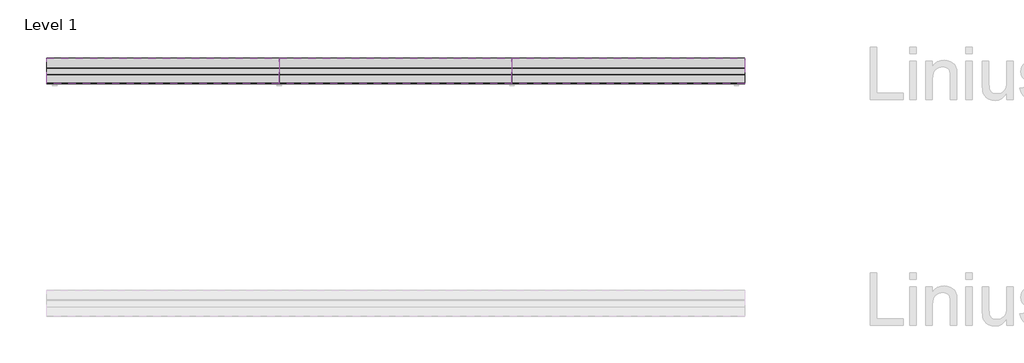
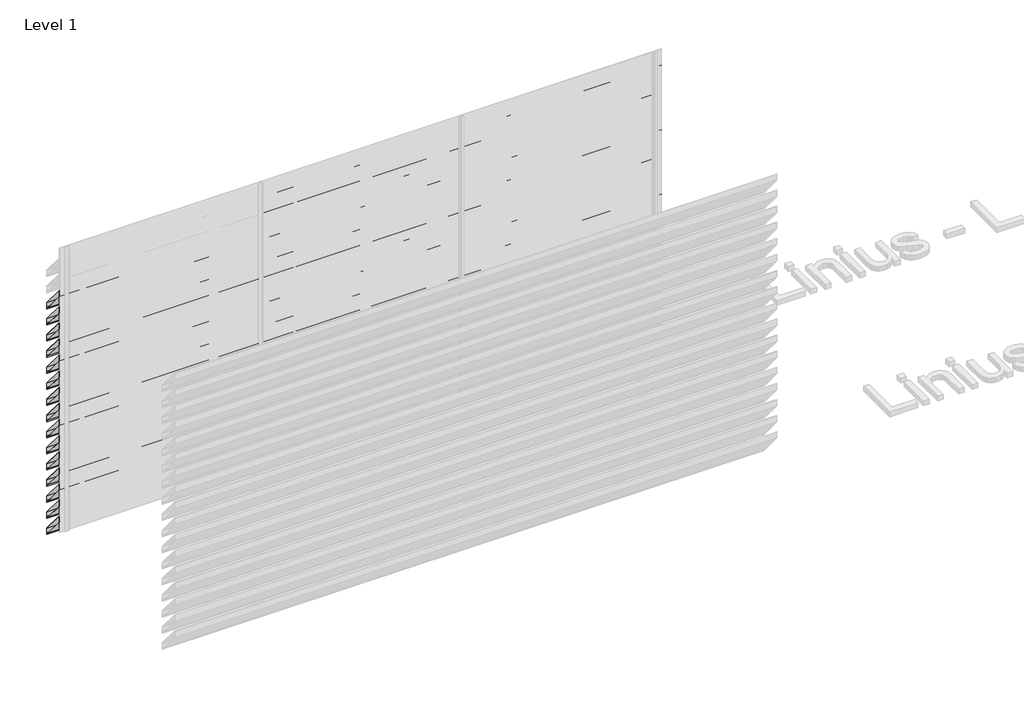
# One storey, part 39 of 121: 49 proxies.
"""IFC4 building model written with IfcOpenShell, lengths in millimetres."""

from ifc_helpers import new_model, si_unit, frame, origin, place, context, project, spatial, polyline, outline, extrude, element, save

model = new_model("IFC4")

# Units and contexts
model_context = context("Model", 3, world=origin())
ifc_project = project(units=[si_unit("LENGTHUNIT", "METRE", prefix="MILLI")], contexts=[model_context])

# Site, building, storey
site = spatial("IfcSite", under=ifc_project)
building = spatial("IfcBuilding", under=site)
storey = spatial("IfcBuildingStorey", under=building, Name="Level 1", Elevation=0.0)

# Proxies
placement = place(None, origin())
element("IfcBuildingElementProxy", 1, Name="Wall Sweeps", at=placement, inside=storey, context=model_context, shape_type="SweptSolid", body=[
    extrude(outline(polyline([(44205.0540136, 2291.0), (44205.0540136, 2222.0), (44202.5540136, 2223.1657691), (44202.5540136, 2236.7059843), (44185.8041465, 2256.6676986), (44175.1189071, 2256.6676986), (43983.0540136, 2485.5617253), (43983.0540136, 2550.0), (43987.7272091, 2550.0), (44205.0540136, 2291.0)]), holes=[polyline([(43986.8412246, 2548.1), (43984.9540136, 2548.1), (43984.9540136, 2486.2532688), (44176.0048916, 2258.5676986), (44186.6901311, 2258.5676986), (44203.1540136, 2238.9468074), (44203.1540136, 2290.3084566), (43986.8412246, 2548.1)])]), frame((466.6208097, 0.0, 0.0), z_axis=(1.0, 0.0, 0.0), x_axis=(0.0, 1.0, 0.0)), (0.0, 0.0, 1.0), 2000.0),
])
element("IfcBuildingElementProxy", 2, Name="Wall Sweeps", at=placement, inside=storey, context=model_context, shape_type="SweptSolid", body=[
    extrude(outline(polyline([(44205.0540136, 2121.0), (44205.0540136, 2052.0), (44202.5540136, 2053.1657691), (44202.5540136, 2066.7059843), (44185.8041465, 2086.6676986), (44175.1189071, 2086.6676986), (43983.0540136, 2315.5617253), (43983.0540136, 2380.0), (43987.7272091, 2380.0), (44205.0540136, 2121.0)]), holes=[polyline([(43986.8412246, 2378.1), (43984.9540136, 2378.1), (43984.9540136, 2316.2532688), (44176.0048916, 2088.5676986), (44186.6901311, 2088.5676986), (44203.1540136, 2068.9468074), (44203.1540136, 2120.3084566), (43986.8412246, 2378.1)])]), frame((466.6208097, 0.0, 0.0), z_axis=(1.0, 0.0, 0.0), x_axis=(0.0, 1.0, 0.0)), (0.0, 0.0, 1.0), 2000.0),
])
element("IfcBuildingElementProxy", 3, Name="Wall Sweeps", at=placement, inside=storey, context=model_context, shape_type="SweptSolid", body=[
    extrude(outline(polyline([(44205.0540136, 1951.0), (44205.0540136, 1882.0), (44202.5540136, 1883.1657691), (44202.5540136, 1896.7059843), (44185.8041465, 1916.6676986), (44175.1189071, 1916.6676986), (43983.0540136, 2145.5617253), (43983.0540136, 2210.0), (43987.7272091, 2210.0), (44205.0540136, 1951.0)]), holes=[polyline([(43986.8412246, 2208.1), (43984.9540136, 2208.1), (43984.9540136, 2146.2532688), (44176.0048916, 1918.5676986), (44186.6901311, 1918.5676986), (44203.1540136, 1898.9468074), (44203.1540136, 1950.3084566), (43986.8412246, 2208.1)])]), frame((466.6208097, 0.0, 0.0), z_axis=(1.0, 0.0, 0.0), x_axis=(0.0, 1.0, 0.0)), (0.0, 0.0, 1.0), 2000.0),
])
element("IfcBuildingElementProxy", 4, Name="Wall Sweeps", at=placement, inside=storey, context=model_context, shape_type="SweptSolid", body=[
    extrude(outline(polyline([(44205.0540136, 1781.0), (44205.0540136, 1712.0), (44202.5540136, 1713.1657691), (44202.5540136, 1726.7059843), (44185.8041465, 1746.6676986), (44175.1189071, 1746.6676986), (43983.0540136, 1975.5617253), (43983.0540136, 2040.0), (43987.7272091, 2040.0), (44205.0540136, 1781.0)]), holes=[polyline([(43986.8412246, 2038.1), (43984.9540136, 2038.1), (43984.9540136, 1976.2532688), (44176.0048916, 1748.5676986), (44186.6901311, 1748.5676986), (44203.1540136, 1728.9468074), (44203.1540136, 1780.3084566), (43986.8412246, 2038.1)])]), frame((466.6208097, 0.0, 0.0), z_axis=(1.0, 0.0, 0.0), x_axis=(0.0, 1.0, 0.0)), (0.0, 0.0, 1.0), 2000.0),
])
element("IfcBuildingElementProxy", 5, Name="Wall Sweeps", at=placement, inside=storey, context=model_context, shape_type="SweptSolid", body=[
    extrude(outline(polyline([(44205.0540136, 1611.0), (44205.0540136, 1542.0), (44202.5540136, 1543.1657691), (44202.5540136, 1556.7059843), (44185.8041465, 1576.6676986), (44175.1189071, 1576.6676986), (43983.0540136, 1805.5617253), (43983.0540136, 1870.0), (43987.7272091, 1870.0), (44205.0540136, 1611.0)]), holes=[polyline([(43986.8412246, 1868.1), (43984.9540136, 1868.1), (43984.9540136, 1806.2532688), (44176.0048916, 1578.5676986), (44186.6901311, 1578.5676986), (44203.1540136, 1558.9468074), (44203.1540136, 1610.3084566), (43986.8412246, 1868.1)])]), frame((466.6208097, 0.0, 0.0), z_axis=(1.0, 0.0, 0.0), x_axis=(0.0, 1.0, 0.0)), (0.0, 0.0, 1.0), 2000.0),
])
element("IfcBuildingElementProxy", 6, Name="Wall Sweeps", at=placement, inside=storey, context=model_context, shape_type="SweptSolid", body=[
    extrude(outline(polyline([(44205.0540136, 1441.0), (44205.0540136, 1372.0), (44202.5540136, 1373.1657691), (44202.5540136, 1386.7059843), (44185.8041465, 1406.6676986), (44175.1189071, 1406.6676986), (43983.0540136, 1635.5617253), (43983.0540136, 1700.0), (43987.7272091, 1700.0), (44205.0540136, 1441.0)]), holes=[polyline([(43986.8412246, 1698.1), (43984.9540136, 1698.1), (43984.9540136, 1636.2532688), (44176.0048916, 1408.5676986), (44186.6901311, 1408.5676986), (44203.1540136, 1388.9468074), (44203.1540136, 1440.3084566), (43986.8412246, 1698.1)])]), frame((466.6208097, 0.0, 0.0), z_axis=(1.0, 0.0, 0.0), x_axis=(0.0, 1.0, 0.0)), (0.0, 0.0, 1.0), 2000.0),
])
element("IfcBuildingElementProxy", 7, Name="Wall Sweeps", at=placement, inside=storey, context=model_context, shape_type="SweptSolid", body=[
    extrude(outline(polyline([(44205.0540136, 1271.0), (44205.0540136, 1202.0), (44202.5540136, 1203.1657691), (44202.5540136, 1216.7059843), (44185.8041465, 1236.6676986), (44175.1189071, 1236.6676986), (43983.0540136, 1465.5617253), (43983.0540136, 1530.0), (43987.7272091, 1530.0), (44205.0540136, 1271.0)]), holes=[polyline([(43986.8412246, 1528.1), (43984.9540136, 1528.1), (43984.9540136, 1466.2532688), (44176.0048916, 1238.5676986), (44186.6901311, 1238.5676986), (44203.1540136, 1218.9468074), (44203.1540136, 1270.3084566), (43986.8412246, 1528.1)])]), frame((466.6208097, 0.0, 0.0), z_axis=(1.0, 0.0, 0.0), x_axis=(0.0, 1.0, 0.0)), (0.0, 0.0, 1.0), 2000.0),
])
element("IfcBuildingElementProxy", 8, Name="Wall Sweeps", at=placement, inside=storey, context=model_context, shape_type="SweptSolid", body=[
    extrude(outline(polyline([(44205.0540136, 1101.0), (44205.0540136, 1032.0), (44202.5540136, 1033.1657691), (44202.5540136, 1046.7059843), (44185.8041465, 1066.6676986), (44175.1189071, 1066.6676986), (43983.0540136, 1295.5617253), (43983.0540136, 1360.0), (43987.7272091, 1360.0), (44205.0540136, 1101.0)]), holes=[polyline([(43986.8412246, 1358.1), (43984.9540136, 1358.1), (43984.9540136, 1296.2532688), (44176.0048916, 1068.5676986), (44186.6901311, 1068.5676986), (44203.1540136, 1048.9468074), (44203.1540136, 1100.3084566), (43986.8412246, 1358.1)])]), frame((466.6208097, 0.0, 0.0), z_axis=(1.0, 0.0, 0.0), x_axis=(0.0, 1.0, 0.0)), (0.0, 0.0, 1.0), 2000.0),
])
element("IfcBuildingElementProxy", 9, Name="Wall Sweeps", at=placement, inside=storey, context=model_context, shape_type="SweptSolid", body=[
    extrude(outline(polyline([(44205.0540136, 931.0), (44205.0540136, 862.0), (44202.5540136, 863.1657691), (44202.5540136, 876.7059843), (44185.8041465, 896.6676986), (44175.1189071, 896.6676986), (43983.0540136, 1125.5617253), (43983.0540136, 1190.0), (43987.7272091, 1190.0), (44205.0540136, 931.0)]), holes=[polyline([(43986.8412246, 1188.1), (43984.9540136, 1188.1), (43984.9540136, 1126.2532688), (44176.0048916, 898.5676986), (44186.6901311, 898.5676986), (44203.1540136, 878.9468074), (44203.1540136, 930.3084566), (43986.8412246, 1188.1)])]), frame((466.6208097, 0.0, 0.0), z_axis=(1.0, 0.0, 0.0), x_axis=(0.0, 1.0, 0.0)), (0.0, 0.0, 1.0), 2000.0),
])
element("IfcBuildingElementProxy", 10, Name="Wall Sweeps", at=placement, inside=storey, context=model_context, shape_type="SweptSolid", body=[
    extrude(outline(polyline([(44205.0540136, 761.0), (44205.0540136, 692.0), (44202.5540136, 693.1657691), (44202.5540136, 706.7059843), (44185.8041465, 726.6676986), (44175.1189071, 726.6676986), (43983.0540136, 955.5617253), (43983.0540136, 1020.0), (43987.7272091, 1020.0), (44205.0540136, 761.0)]), holes=[polyline([(43986.8412246, 1018.1), (43984.9540136, 1018.1), (43984.9540136, 956.2532688), (44176.0048916, 728.5676986), (44186.6901311, 728.5676986), (44203.1540136, 708.9468074), (44203.1540136, 760.3084566), (43986.8412246, 1018.1)])]), frame((466.6208097, 0.0, 0.0), z_axis=(1.0, 0.0, 0.0), x_axis=(0.0, 1.0, 0.0)), (0.0, 0.0, 1.0), 2000.0),
])
element("IfcBuildingElementProxy", 11, Name="Wall Sweeps", at=placement, inside=storey, context=model_context, shape_type="SweptSolid", body=[
    extrude(outline(polyline([(44205.0540136, 591.0), (44205.0540136, 522.0), (44202.5540136, 523.1657691), (44202.5540136, 536.7059843), (44185.8041465, 556.6676986), (44175.1189071, 556.6676986), (43983.0540136, 785.5617253), (43983.0540136, 850.0), (43987.7272091, 850.0), (44205.0540136, 591.0)]), holes=[polyline([(43986.8412246, 848.1), (43984.9540136, 848.1), (43984.9540136, 786.2532688), (44176.0048916, 558.5676986), (44186.6901311, 558.5676986), (44203.1540136, 538.9468074), (44203.1540136, 590.3084566), (43986.8412246, 848.1)])]), frame((466.6208097, 0.0, 0.0), z_axis=(1.0, 0.0, 0.0), x_axis=(0.0, 1.0, 0.0)), (0.0, 0.0, 1.0), 2000.0),
])
element("IfcBuildingElementProxy", 12, Name="Wall Sweeps", at=placement, inside=storey, context=model_context, shape_type="SweptSolid", body=[
    extrude(outline(polyline([(44205.0540136, 421.0), (44205.0540136, 352.0), (44202.5540136, 353.1657691), (44202.5540136, 366.7059843), (44185.8041465, 386.6676986), (44175.1189071, 386.6676986), (43983.0540136, 615.5617253), (43983.0540136, 680.0), (43987.7272091, 680.0), (44205.0540136, 421.0)]), holes=[polyline([(43986.8412246, 678.1), (43984.9540136, 678.1), (43984.9540136, 616.2532688), (44176.0048916, 388.5676986), (44186.6901311, 388.5676986), (44203.1540136, 368.9468074), (44203.1540136, 420.3084566), (43986.8412246, 678.1)])]), frame((466.6208097, 0.0, 0.0), z_axis=(1.0, 0.0, 0.0), x_axis=(0.0, 1.0, 0.0)), (0.0, 0.0, 1.0), 2000.0),
])
element("IfcBuildingElementProxy", 13, Name="Wall Sweeps", at=placement, inside=storey, context=model_context, shape_type="SweptSolid", body=[
    extrude(outline(polyline([(44205.0540136, 251.0), (44205.0540136, 182.0), (44202.5540136, 183.1657691), (44202.5540136, 196.7059843), (44185.8041465, 216.6676986), (44175.1189071, 216.6676986), (43983.0540136, 445.5617253), (43983.0540136, 510.0), (43987.7272091, 510.0), (44205.0540136, 251.0)]), holes=[polyline([(43986.8412246, 508.1), (43984.9540136, 508.1), (43984.9540136, 446.2532688), (44176.0048916, 218.5676986), (44186.6901311, 218.5676986), (44203.1540136, 198.9468074), (44203.1540136, 250.3084566), (43986.8412246, 508.1)])]), frame((466.6208097, 0.0, 0.0), z_axis=(1.0, 0.0, 0.0), x_axis=(0.0, 1.0, 0.0)), (0.0, 0.0, 1.0), 2000.0),
])
element("IfcBuildingElementProxy", 14, Name="Wall Sweeps", at=placement, inside=storey, context=model_context, shape_type="SweptSolid", body=[
    extrude(outline(polyline([(44205.0540136, 81.0), (44205.0540136, 12.0), (44202.5540136, 13.1657691), (44202.5540136, 26.7059843), (44185.8041465, 46.6676986), (44175.1189071, 46.6676986), (43983.0540136, 275.5617253), (43983.0540136, 340.0), (43987.7272091, 340.0), (44205.0540136, 81.0)]), holes=[polyline([(43986.8412246, 338.1), (43984.9540136, 338.1), (43984.9540136, 276.2532688), (44176.0048916, 48.5676986), (44186.6901311, 48.5676986), (44203.1540136, 28.9468074), (44203.1540136, 80.3084566), (43986.8412246, 338.1)])]), frame((466.6208097, 0.0, 0.0), z_axis=(1.0, 0.0, 0.0), x_axis=(0.0, 1.0, 0.0)), (0.0, 0.0, 1.0), 2000.0),
])
element("IfcBuildingElementProxy", 15, Name="Wall Sweeps", at=placement, inside=storey, context=model_context, shape_type="SweptSolid", body=[
    extrude(outline(polyline([(44205.0540136, -89.0), (44205.0540136, -158.0), (44202.5540136, -156.8342309), (44202.5540136, -143.2940157), (44185.8041465, -123.3323014), (44175.1189071, -123.3323014), (43983.0540136, 105.5617253), (43983.0540136, 170.0), (43987.7272091, 170.0), (44205.0540136, -89.0)]), holes=[polyline([(43986.8412246, 168.1), (43984.9540136, 168.1), (43984.9540136, 106.2532688), (44176.0048916, -121.4323014), (44186.6901311, -121.4323014), (44203.1540136, -141.0531926), (44203.1540136, -89.6915434), (43986.8412246, 168.1)])]), frame((466.6208097, 0.0, 0.0), z_axis=(1.0, 0.0, 0.0), x_axis=(0.0, 1.0, 0.0)), (0.0, 0.0, 1.0), 2000.0),
])
element("IfcBuildingElementProxy", 16, Name="Wall Sweeps", at=placement, inside=storey, context=model_context, shape_type="SweptSolid", body=[
    extrude(outline(polyline([(44205.0540136, 2631.0), (44205.0540136, 2562.0), (44202.5540136, 2563.1657691), (44202.5540136, 2576.7059843), (44185.8041465, 2596.6676986), (44175.1189071, 2596.6676986), (43983.0540136, 2825.5617253), (43983.0540136, 2890.0), (43987.7272091, 2890.0), (44205.0540136, 2631.0)]), holes=[polyline([(43986.8412246, 2888.1), (43984.9540136, 2888.1), (43984.9540136, 2826.2532688), (44176.0048916, 2598.5676986), (44186.6901311, 2598.5676986), (44203.1540136, 2578.9468074), (44203.1540136, 2630.3084566), (43986.8412246, 2888.1)])]), frame((2466.6208097, 0.0, 0.0), z_axis=(1.0, 0.0, 0.0), x_axis=(0.0, 1.0, 0.0)), (0.0, 0.0, 1.0), 2000.0),
])
element("IfcBuildingElementProxy", 17, Name="Wall Sweeps", at=placement, inside=storey, context=model_context, shape_type="SweptSolid", body=[
    extrude(outline(polyline([(44205.0540136, 2461.0), (44205.0540136, 2392.0), (44202.5540136, 2393.1657691), (44202.5540136, 2406.7059843), (44185.8041465, 2426.6676986), (44175.1189071, 2426.6676986), (43983.0540136, 2655.5617253), (43983.0540136, 2720.0), (43987.7272091, 2720.0), (44205.0540136, 2461.0)]), holes=[polyline([(43986.8412246, 2718.1), (43984.9540136, 2718.1), (43984.9540136, 2656.2532688), (44176.0048916, 2428.5676986), (44186.6901311, 2428.5676986), (44203.1540136, 2408.9468074), (44203.1540136, 2460.3084566), (43986.8412246, 2718.1)])]), frame((2466.6208097, 0.0, 0.0), z_axis=(1.0, 0.0, 0.0), x_axis=(0.0, 1.0, 0.0)), (0.0, 0.0, 1.0), 2000.0),
])
element("IfcBuildingElementProxy", 18, Name="Wall Sweeps", at=placement, inside=storey, context=model_context, shape_type="SweptSolid", body=[
    extrude(outline(polyline([(44205.0540136, 2291.0), (44205.0540136, 2222.0), (44202.5540136, 2223.1657691), (44202.5540136, 2236.7059843), (44185.8041465, 2256.6676986), (44175.1189071, 2256.6676986), (43983.0540136, 2485.5617253), (43983.0540136, 2550.0), (43987.7272091, 2550.0), (44205.0540136, 2291.0)]), holes=[polyline([(43986.8412246, 2548.1), (43984.9540136, 2548.1), (43984.9540136, 2486.2532688), (44176.0048916, 2258.5676986), (44186.6901311, 2258.5676986), (44203.1540136, 2238.9468074), (44203.1540136, 2290.3084566), (43986.8412246, 2548.1)])]), frame((2466.6208097, 0.0, 0.0), z_axis=(1.0, 0.0, 0.0), x_axis=(0.0, 1.0, 0.0)), (0.0, 0.0, 1.0), 2000.0),
])
element("IfcBuildingElementProxy", 19, Name="Wall Sweeps", at=placement, inside=storey, context=model_context, shape_type="SweptSolid", body=[
    extrude(outline(polyline([(44205.0540136, 2121.0), (44205.0540136, 2052.0), (44202.5540136, 2053.1657691), (44202.5540136, 2066.7059843), (44185.8041465, 2086.6676986), (44175.1189071, 2086.6676986), (43983.0540136, 2315.5617253), (43983.0540136, 2380.0), (43987.7272091, 2380.0), (44205.0540136, 2121.0)]), holes=[polyline([(43986.8412246, 2378.1), (43984.9540136, 2378.1), (43984.9540136, 2316.2532688), (44176.0048916, 2088.5676986), (44186.6901311, 2088.5676986), (44203.1540136, 2068.9468074), (44203.1540136, 2120.3084566), (43986.8412246, 2378.1)])]), frame((2466.6208097, 0.0, 0.0), z_axis=(1.0, 0.0, 0.0), x_axis=(0.0, 1.0, 0.0)), (0.0, 0.0, 1.0), 2000.0),
])
element("IfcBuildingElementProxy", 20, Name="Wall Sweeps", at=placement, inside=storey, context=model_context, shape_type="SweptSolid", body=[
    extrude(outline(polyline([(44205.0540136, 1951.0), (44205.0540136, 1882.0), (44202.5540136, 1883.1657691), (44202.5540136, 1896.7059843), (44185.8041465, 1916.6676986), (44175.1189071, 1916.6676986), (43983.0540136, 2145.5617253), (43983.0540136, 2210.0), (43987.7272091, 2210.0), (44205.0540136, 1951.0)]), holes=[polyline([(43986.8412246, 2208.1), (43984.9540136, 2208.1), (43984.9540136, 2146.2532688), (44176.0048916, 1918.5676986), (44186.6901311, 1918.5676986), (44203.1540136, 1898.9468074), (44203.1540136, 1950.3084566), (43986.8412246, 2208.1)])]), frame((2466.6208097, 0.0, 0.0), z_axis=(1.0, 0.0, 0.0), x_axis=(0.0, 1.0, 0.0)), (0.0, 0.0, 1.0), 2000.0),
])
element("IfcBuildingElementProxy", 21, Name="Wall Sweeps", at=placement, inside=storey, context=model_context, shape_type="SweptSolid", body=[
    extrude(outline(polyline([(44205.0540136, 1781.0), (44205.0540136, 1712.0), (44202.5540136, 1713.1657691), (44202.5540136, 1726.7059843), (44185.8041465, 1746.6676986), (44175.1189071, 1746.6676986), (43983.0540136, 1975.5617253), (43983.0540136, 2040.0), (43987.7272091, 2040.0), (44205.0540136, 1781.0)]), holes=[polyline([(43986.8412246, 2038.1), (43984.9540136, 2038.1), (43984.9540136, 1976.2532688), (44176.0048916, 1748.5676986), (44186.6901311, 1748.5676986), (44203.1540136, 1728.9468074), (44203.1540136, 1780.3084566), (43986.8412246, 2038.1)])]), frame((2466.6208097, 0.0, 0.0), z_axis=(1.0, 0.0, 0.0), x_axis=(0.0, 1.0, 0.0)), (0.0, 0.0, 1.0), 2000.0),
])
element("IfcBuildingElementProxy", 22, Name="Wall Sweeps", at=placement, inside=storey, context=model_context, shape_type="SweptSolid", body=[
    extrude(outline(polyline([(44205.0540136, 1611.0), (44205.0540136, 1542.0), (44202.5540136, 1543.1657691), (44202.5540136, 1556.7059843), (44185.8041465, 1576.6676986), (44175.1189071, 1576.6676986), (43983.0540136, 1805.5617253), (43983.0540136, 1870.0), (43987.7272091, 1870.0), (44205.0540136, 1611.0)]), holes=[polyline([(43986.8412246, 1868.1), (43984.9540136, 1868.1), (43984.9540136, 1806.2532688), (44176.0048916, 1578.5676986), (44186.6901311, 1578.5676986), (44203.1540136, 1558.9468074), (44203.1540136, 1610.3084566), (43986.8412246, 1868.1)])]), frame((2466.6208097, 0.0, 0.0), z_axis=(1.0, 0.0, 0.0), x_axis=(0.0, 1.0, 0.0)), (0.0, 0.0, 1.0), 2000.0),
])
element("IfcBuildingElementProxy", 23, Name="Wall Sweeps", at=placement, inside=storey, context=model_context, shape_type="SweptSolid", body=[
    extrude(outline(polyline([(44205.0540136, 1441.0), (44205.0540136, 1372.0), (44202.5540136, 1373.1657691), (44202.5540136, 1386.7059843), (44185.8041465, 1406.6676986), (44175.1189071, 1406.6676986), (43983.0540136, 1635.5617253), (43983.0540136, 1700.0), (43987.7272091, 1700.0), (44205.0540136, 1441.0)]), holes=[polyline([(43986.8412246, 1698.1), (43984.9540136, 1698.1), (43984.9540136, 1636.2532688), (44176.0048916, 1408.5676986), (44186.6901311, 1408.5676986), (44203.1540136, 1388.9468074), (44203.1540136, 1440.3084566), (43986.8412246, 1698.1)])]), frame((2466.6208097, 0.0, 0.0), z_axis=(1.0, 0.0, 0.0), x_axis=(0.0, 1.0, 0.0)), (0.0, 0.0, 1.0), 2000.0),
])
element("IfcBuildingElementProxy", 24, Name="Wall Sweeps", at=placement, inside=storey, context=model_context, shape_type="SweptSolid", body=[
    extrude(outline(polyline([(44205.0540136, 1271.0), (44205.0540136, 1202.0), (44202.5540136, 1203.1657691), (44202.5540136, 1216.7059843), (44185.8041465, 1236.6676986), (44175.1189071, 1236.6676986), (43983.0540136, 1465.5617253), (43983.0540136, 1530.0), (43987.7272091, 1530.0), (44205.0540136, 1271.0)]), holes=[polyline([(43986.8412246, 1528.1), (43984.9540136, 1528.1), (43984.9540136, 1466.2532688), (44176.0048916, 1238.5676986), (44186.6901311, 1238.5676986), (44203.1540136, 1218.9468074), (44203.1540136, 1270.3084566), (43986.8412246, 1528.1)])]), frame((2466.6208097, 0.0, 0.0), z_axis=(1.0, 0.0, 0.0), x_axis=(0.0, 1.0, 0.0)), (0.0, 0.0, 1.0), 2000.0),
])
element("IfcBuildingElementProxy", 25, Name="Wall Sweeps", at=placement, inside=storey, context=model_context, shape_type="SweptSolid", body=[
    extrude(outline(polyline([(44205.0540136, 1101.0), (44205.0540136, 1032.0), (44202.5540136, 1033.1657691), (44202.5540136, 1046.7059843), (44185.8041465, 1066.6676986), (44175.1189071, 1066.6676986), (43983.0540136, 1295.5617253), (43983.0540136, 1360.0), (43987.7272091, 1360.0), (44205.0540136, 1101.0)]), holes=[polyline([(43986.8412246, 1358.1), (43984.9540136, 1358.1), (43984.9540136, 1296.2532688), (44176.0048916, 1068.5676986), (44186.6901311, 1068.5676986), (44203.1540136, 1048.9468074), (44203.1540136, 1100.3084566), (43986.8412246, 1358.1)])]), frame((2466.6208097, 0.0, 0.0), z_axis=(1.0, 0.0, 0.0), x_axis=(0.0, 1.0, 0.0)), (0.0, 0.0, 1.0), 2000.0),
])
element("IfcBuildingElementProxy", 26, Name="Wall Sweeps", at=placement, inside=storey, context=model_context, shape_type="SweptSolid", body=[
    extrude(outline(polyline([(44205.0540136, 931.0), (44205.0540136, 862.0), (44202.5540136, 863.1657691), (44202.5540136, 876.7059843), (44185.8041465, 896.6676986), (44175.1189071, 896.6676986), (43983.0540136, 1125.5617253), (43983.0540136, 1190.0), (43987.7272091, 1190.0), (44205.0540136, 931.0)]), holes=[polyline([(43986.8412246, 1188.1), (43984.9540136, 1188.1), (43984.9540136, 1126.2532688), (44176.0048916, 898.5676986), (44186.6901311, 898.5676986), (44203.1540136, 878.9468074), (44203.1540136, 930.3084566), (43986.8412246, 1188.1)])]), frame((2466.6208097, 0.0, 0.0), z_axis=(1.0, 0.0, 0.0), x_axis=(0.0, 1.0, 0.0)), (0.0, 0.0, 1.0), 2000.0),
])
element("IfcBuildingElementProxy", 27, Name="Wall Sweeps", at=placement, inside=storey, context=model_context, shape_type="SweptSolid", body=[
    extrude(outline(polyline([(44205.0540136, 761.0), (44205.0540136, 692.0), (44202.5540136, 693.1657691), (44202.5540136, 706.7059843), (44185.8041465, 726.6676986), (44175.1189071, 726.6676986), (43983.0540136, 955.5617253), (43983.0540136, 1020.0), (43987.7272091, 1020.0), (44205.0540136, 761.0)]), holes=[polyline([(43986.8412246, 1018.1), (43984.9540136, 1018.1), (43984.9540136, 956.2532688), (44176.0048916, 728.5676986), (44186.6901311, 728.5676986), (44203.1540136, 708.9468074), (44203.1540136, 760.3084566), (43986.8412246, 1018.1)])]), frame((2466.6208097, 0.0, 0.0), z_axis=(1.0, 0.0, 0.0), x_axis=(0.0, 1.0, 0.0)), (0.0, 0.0, 1.0), 2000.0),
])
element("IfcBuildingElementProxy", 28, Name="Wall Sweeps", at=placement, inside=storey, context=model_context, shape_type="SweptSolid", body=[
    extrude(outline(polyline([(44205.0540136, 591.0), (44205.0540136, 522.0), (44202.5540136, 523.1657691), (44202.5540136, 536.7059843), (44185.8041465, 556.6676986), (44175.1189071, 556.6676986), (43983.0540136, 785.5617253), (43983.0540136, 850.0), (43987.7272091, 850.0), (44205.0540136, 591.0)]), holes=[polyline([(43986.8412246, 848.1), (43984.9540136, 848.1), (43984.9540136, 786.2532688), (44176.0048916, 558.5676986), (44186.6901311, 558.5676986), (44203.1540136, 538.9468074), (44203.1540136, 590.3084566), (43986.8412246, 848.1)])]), frame((2466.6208097, 0.0, 0.0), z_axis=(1.0, 0.0, 0.0), x_axis=(0.0, 1.0, 0.0)), (0.0, 0.0, 1.0), 2000.0),
])
element("IfcBuildingElementProxy", 29, Name="Wall Sweeps", at=placement, inside=storey, context=model_context, shape_type="SweptSolid", body=[
    extrude(outline(polyline([(44205.0540136, 421.0), (44205.0540136, 352.0), (44202.5540136, 353.1657691), (44202.5540136, 366.7059843), (44185.8041465, 386.6676986), (44175.1189071, 386.6676986), (43983.0540136, 615.5617253), (43983.0540136, 680.0), (43987.7272091, 680.0), (44205.0540136, 421.0)]), holes=[polyline([(43986.8412246, 678.1), (43984.9540136, 678.1), (43984.9540136, 616.2532688), (44176.0048916, 388.5676986), (44186.6901311, 388.5676986), (44203.1540136, 368.9468074), (44203.1540136, 420.3084566), (43986.8412246, 678.1)])]), frame((2466.6208097, 0.0, 0.0), z_axis=(1.0, 0.0, 0.0), x_axis=(0.0, 1.0, 0.0)), (0.0, 0.0, 1.0), 2000.0),
])
element("IfcBuildingElementProxy", 30, Name="Wall Sweeps", at=placement, inside=storey, context=model_context, shape_type="SweptSolid", body=[
    extrude(outline(polyline([(44205.0540136, 251.0), (44205.0540136, 182.0), (44202.5540136, 183.1657691), (44202.5540136, 196.7059843), (44185.8041465, 216.6676986), (44175.1189071, 216.6676986), (43983.0540136, 445.5617253), (43983.0540136, 510.0), (43987.7272091, 510.0), (44205.0540136, 251.0)]), holes=[polyline([(43986.8412246, 508.1), (43984.9540136, 508.1), (43984.9540136, 446.2532688), (44176.0048916, 218.5676986), (44186.6901311, 218.5676986), (44203.1540136, 198.9468074), (44203.1540136, 250.3084566), (43986.8412246, 508.1)])]), frame((2466.6208097, 0.0, 0.0), z_axis=(1.0, 0.0, 0.0), x_axis=(0.0, 1.0, 0.0)), (0.0, 0.0, 1.0), 2000.0),
])
element("IfcBuildingElementProxy", 31, Name="Wall Sweeps", at=placement, inside=storey, context=model_context, shape_type="SweptSolid", body=[
    extrude(outline(polyline([(44205.0540136, 81.0), (44205.0540136, 12.0), (44202.5540136, 13.1657691), (44202.5540136, 26.7059843), (44185.8041465, 46.6676986), (44175.1189071, 46.6676986), (43983.0540136, 275.5617253), (43983.0540136, 340.0), (43987.7272091, 340.0), (44205.0540136, 81.0)]), holes=[polyline([(43986.8412246, 338.1), (43984.9540136, 338.1), (43984.9540136, 276.2532688), (44176.0048916, 48.5676986), (44186.6901311, 48.5676986), (44203.1540136, 28.9468074), (44203.1540136, 80.3084566), (43986.8412246, 338.1)])]), frame((2466.6208097, 0.0, 0.0), z_axis=(1.0, 0.0, 0.0), x_axis=(0.0, 1.0, 0.0)), (0.0, 0.0, 1.0), 2000.0),
])
element("IfcBuildingElementProxy", 32, Name="Wall Sweeps", at=placement, inside=storey, context=model_context, shape_type="SweptSolid", body=[
    extrude(outline(polyline([(44205.0540136, -89.0), (44205.0540136, -158.0), (44202.5540136, -156.8342309), (44202.5540136, -143.2940157), (44185.8041465, -123.3323014), (44175.1189071, -123.3323014), (43983.0540136, 105.5617253), (43983.0540136, 170.0), (43987.7272091, 170.0), (44205.0540136, -89.0)]), holes=[polyline([(43986.8412246, 168.1), (43984.9540136, 168.1), (43984.9540136, 106.2532688), (44176.0048916, -121.4323014), (44186.6901311, -121.4323014), (44203.1540136, -141.0531926), (44203.1540136, -89.6915434), (43986.8412246, 168.1)])]), frame((2466.6208097, 0.0, 0.0), z_axis=(1.0, 0.0, 0.0), x_axis=(0.0, 1.0, 0.0)), (0.0, 0.0, 1.0), 2000.0),
])
element("IfcBuildingElementProxy", 33, Name="Wall Sweeps", at=placement, inside=storey, context=model_context, shape_type="SweptSolid", body=[
    extrude(outline(polyline([(44205.0540136, 2631.0), (44205.0540136, 2562.0), (44202.5540136, 2563.1657691), (44202.5540136, 2576.7059843), (44185.8041465, 2596.6676986), (44175.1189071, 2596.6676986), (43983.0540136, 2825.5617253), (43983.0540136, 2890.0), (43987.7272091, 2890.0), (44205.0540136, 2631.0)]), holes=[polyline([(43986.8412246, 2888.1), (43984.9540136, 2888.1), (43984.9540136, 2826.2532688), (44176.0048916, 2598.5676986), (44186.6901311, 2598.5676986), (44203.1540136, 2578.9468074), (44203.1540136, 2630.3084566), (43986.8412246, 2888.1)])]), frame((4466.6208097, 0.0, 0.0), z_axis=(1.0, 0.0, 0.0), x_axis=(0.0, 1.0, 0.0)), (0.0, 0.0, 1.0), 2000.0),
])
element("IfcBuildingElementProxy", 34, Name="Wall Sweeps", at=placement, inside=storey, context=model_context, shape_type="SweptSolid", body=[
    extrude(outline(polyline([(44205.0540136, 2461.0), (44205.0540136, 2392.0), (44202.5540136, 2393.1657691), (44202.5540136, 2406.7059843), (44185.8041465, 2426.6676986), (44175.1189071, 2426.6676986), (43983.0540136, 2655.5617253), (43983.0540136, 2720.0), (43987.7272091, 2720.0), (44205.0540136, 2461.0)]), holes=[polyline([(43986.8412246, 2718.1), (43984.9540136, 2718.1), (43984.9540136, 2656.2532688), (44176.0048916, 2428.5676986), (44186.6901311, 2428.5676986), (44203.1540136, 2408.9468074), (44203.1540136, 2460.3084566), (43986.8412246, 2718.1)])]), frame((4466.6208097, 0.0, 0.0), z_axis=(1.0, 0.0, 0.0), x_axis=(0.0, 1.0, 0.0)), (0.0, 0.0, 1.0), 2000.0),
])
element("IfcBuildingElementProxy", 35, Name="Wall Sweeps", at=placement, inside=storey, context=model_context, shape_type="SweptSolid", body=[
    extrude(outline(polyline([(44205.0540136, 2291.0), (44205.0540136, 2222.0), (44202.5540136, 2223.1657691), (44202.5540136, 2236.7059843), (44185.8041465, 2256.6676986), (44175.1189071, 2256.6676986), (43983.0540136, 2485.5617253), (43983.0540136, 2550.0), (43987.7272091, 2550.0), (44205.0540136, 2291.0)]), holes=[polyline([(43986.8412246, 2548.1), (43984.9540136, 2548.1), (43984.9540136, 2486.2532688), (44176.0048916, 2258.5676986), (44186.6901311, 2258.5676986), (44203.1540136, 2238.9468074), (44203.1540136, 2290.3084566), (43986.8412246, 2548.1)])]), frame((4466.6208097, 0.0, 0.0), z_axis=(1.0, 0.0, 0.0), x_axis=(0.0, 1.0, 0.0)), (0.0, 0.0, 1.0), 2000.0),
])
element("IfcBuildingElementProxy", 36, Name="Wall Sweeps", at=placement, inside=storey, context=model_context, shape_type="SweptSolid", body=[
    extrude(outline(polyline([(44205.0540136, 2121.0), (44205.0540136, 2052.0), (44202.5540136, 2053.1657691), (44202.5540136, 2066.7059843), (44185.8041465, 2086.6676986), (44175.1189071, 2086.6676986), (43983.0540136, 2315.5617253), (43983.0540136, 2380.0), (43987.7272091, 2380.0), (44205.0540136, 2121.0)]), holes=[polyline([(43986.8412246, 2378.1), (43984.9540136, 2378.1), (43984.9540136, 2316.2532688), (44176.0048916, 2088.5676986), (44186.6901311, 2088.5676986), (44203.1540136, 2068.9468074), (44203.1540136, 2120.3084566), (43986.8412246, 2378.1)])]), frame((4466.6208097, 0.0, 0.0), z_axis=(1.0, 0.0, 0.0), x_axis=(0.0, 1.0, 0.0)), (0.0, 0.0, 1.0), 2000.0),
])
element("IfcBuildingElementProxy", 37, Name="Wall Sweeps", at=placement, inside=storey, context=model_context, shape_type="SweptSolid", body=[
    extrude(outline(polyline([(44205.0540136, 1951.0), (44205.0540136, 1882.0), (44202.5540136, 1883.1657691), (44202.5540136, 1896.7059843), (44185.8041465, 1916.6676986), (44175.1189071, 1916.6676986), (43983.0540136, 2145.5617253), (43983.0540136, 2210.0), (43987.7272091, 2210.0), (44205.0540136, 1951.0)]), holes=[polyline([(43986.8412246, 2208.1), (43984.9540136, 2208.1), (43984.9540136, 2146.2532688), (44176.0048916, 1918.5676986), (44186.6901311, 1918.5676986), (44203.1540136, 1898.9468074), (44203.1540136, 1950.3084566), (43986.8412246, 2208.1)])]), frame((4466.6208097, 0.0, 0.0), z_axis=(1.0, 0.0, 0.0), x_axis=(0.0, 1.0, 0.0)), (0.0, 0.0, 1.0), 2000.0),
])
element("IfcBuildingElementProxy", 38, Name="Wall Sweeps", at=placement, inside=storey, context=model_context, shape_type="SweptSolid", body=[
    extrude(outline(polyline([(44205.0540136, 1781.0), (44205.0540136, 1712.0), (44202.5540136, 1713.1657691), (44202.5540136, 1726.7059843), (44185.8041465, 1746.6676986), (44175.1189071, 1746.6676986), (43983.0540136, 1975.5617253), (43983.0540136, 2040.0), (43987.7272091, 2040.0), (44205.0540136, 1781.0)]), holes=[polyline([(43986.8412246, 2038.1), (43984.9540136, 2038.1), (43984.9540136, 1976.2532688), (44176.0048916, 1748.5676986), (44186.6901311, 1748.5676986), (44203.1540136, 1728.9468074), (44203.1540136, 1780.3084566), (43986.8412246, 2038.1)])]), frame((4466.6208097, 0.0, 0.0), z_axis=(1.0, 0.0, 0.0), x_axis=(0.0, 1.0, 0.0)), (0.0, 0.0, 1.0), 2000.0),
])
element("IfcBuildingElementProxy", 39, Name="Wall Sweeps", at=placement, inside=storey, context=model_context, shape_type="SweptSolid", body=[
    extrude(outline(polyline([(44205.0540136, 1611.0), (44205.0540136, 1542.0), (44202.5540136, 1543.1657691), (44202.5540136, 1556.7059843), (44185.8041465, 1576.6676986), (44175.1189071, 1576.6676986), (43983.0540136, 1805.5617253), (43983.0540136, 1870.0), (43987.7272091, 1870.0), (44205.0540136, 1611.0)]), holes=[polyline([(43986.8412246, 1868.1), (43984.9540136, 1868.1), (43984.9540136, 1806.2532688), (44176.0048916, 1578.5676986), (44186.6901311, 1578.5676986), (44203.1540136, 1558.9468074), (44203.1540136, 1610.3084566), (43986.8412246, 1868.1)])]), frame((4466.6208097, 0.0, 0.0), z_axis=(1.0, 0.0, 0.0), x_axis=(0.0, 1.0, 0.0)), (0.0, 0.0, 1.0), 2000.0),
])
element("IfcBuildingElementProxy", 40, Name="Wall Sweeps", at=placement, inside=storey, context=model_context, shape_type="SweptSolid", body=[
    extrude(outline(polyline([(44205.0540136, 1441.0), (44205.0540136, 1372.0), (44202.5540136, 1373.1657691), (44202.5540136, 1386.7059843), (44185.8041465, 1406.6676986), (44175.1189071, 1406.6676986), (43983.0540136, 1635.5617253), (43983.0540136, 1700.0), (43987.7272091, 1700.0), (44205.0540136, 1441.0)]), holes=[polyline([(43986.8412246, 1698.1), (43984.9540136, 1698.1), (43984.9540136, 1636.2532688), (44176.0048916, 1408.5676986), (44186.6901311, 1408.5676986), (44203.1540136, 1388.9468074), (44203.1540136, 1440.3084566), (43986.8412246, 1698.1)])]), frame((4466.6208097, 0.0, 0.0), z_axis=(1.0, 0.0, 0.0), x_axis=(0.0, 1.0, 0.0)), (0.0, 0.0, 1.0), 2000.0),
])
element("IfcBuildingElementProxy", 41, Name="Wall Sweeps", at=placement, inside=storey, context=model_context, shape_type="SweptSolid", body=[
    extrude(outline(polyline([(44205.0540136, 1271.0), (44205.0540136, 1202.0), (44202.5540136, 1203.1657691), (44202.5540136, 1216.7059843), (44185.8041465, 1236.6676986), (44175.1189071, 1236.6676986), (43983.0540136, 1465.5617253), (43983.0540136, 1530.0), (43987.7272091, 1530.0), (44205.0540136, 1271.0)]), holes=[polyline([(43986.8412246, 1528.1), (43984.9540136, 1528.1), (43984.9540136, 1466.2532688), (44176.0048916, 1238.5676986), (44186.6901311, 1238.5676986), (44203.1540136, 1218.9468074), (44203.1540136, 1270.3084566), (43986.8412246, 1528.1)])]), frame((4466.6208097, 0.0, 0.0), z_axis=(1.0, 0.0, 0.0), x_axis=(0.0, 1.0, 0.0)), (0.0, 0.0, 1.0), 2000.0),
])
element("IfcBuildingElementProxy", 42, Name="Wall Sweeps", at=placement, inside=storey, context=model_context, shape_type="SweptSolid", body=[
    extrude(outline(polyline([(44205.0540136, 1101.0), (44205.0540136, 1032.0), (44202.5540136, 1033.1657691), (44202.5540136, 1046.7059843), (44185.8041465, 1066.6676986), (44175.1189071, 1066.6676986), (43983.0540136, 1295.5617253), (43983.0540136, 1360.0), (43987.7272091, 1360.0), (44205.0540136, 1101.0)]), holes=[polyline([(43986.8412246, 1358.1), (43984.9540136, 1358.1), (43984.9540136, 1296.2532688), (44176.0048916, 1068.5676986), (44186.6901311, 1068.5676986), (44203.1540136, 1048.9468074), (44203.1540136, 1100.3084566), (43986.8412246, 1358.1)])]), frame((4466.6208097, 0.0, 0.0), z_axis=(1.0, 0.0, 0.0), x_axis=(0.0, 1.0, 0.0)), (0.0, 0.0, 1.0), 2000.0),
])
element("IfcBuildingElementProxy", 43, Name="Wall Sweeps", at=placement, inside=storey, context=model_context, shape_type="SweptSolid", body=[
    extrude(outline(polyline([(44205.0540136, 931.0), (44205.0540136, 862.0), (44202.5540136, 863.1657691), (44202.5540136, 876.7059843), (44185.8041465, 896.6676986), (44175.1189071, 896.6676986), (43983.0540136, 1125.5617253), (43983.0540136, 1190.0), (43987.7272091, 1190.0), (44205.0540136, 931.0)]), holes=[polyline([(43986.8412246, 1188.1), (43984.9540136, 1188.1), (43984.9540136, 1126.2532688), (44176.0048916, 898.5676986), (44186.6901311, 898.5676986), (44203.1540136, 878.9468074), (44203.1540136, 930.3084566), (43986.8412246, 1188.1)])]), frame((4466.6208097, 0.0, 0.0), z_axis=(1.0, 0.0, 0.0), x_axis=(0.0, 1.0, 0.0)), (0.0, 0.0, 1.0), 2000.0),
])
element("IfcBuildingElementProxy", 44, Name="Wall Sweeps", at=placement, inside=storey, context=model_context, shape_type="SweptSolid", body=[
    extrude(outline(polyline([(44205.0540136, 761.0), (44205.0540136, 692.0), (44202.5540136, 693.1657691), (44202.5540136, 706.7059843), (44185.8041465, 726.6676986), (44175.1189071, 726.6676986), (43983.0540136, 955.5617253), (43983.0540136, 1020.0), (43987.7272091, 1020.0), (44205.0540136, 761.0)]), holes=[polyline([(43986.8412246, 1018.1), (43984.9540136, 1018.1), (43984.9540136, 956.2532688), (44176.0048916, 728.5676986), (44186.6901311, 728.5676986), (44203.1540136, 708.9468074), (44203.1540136, 760.3084566), (43986.8412246, 1018.1)])]), frame((4466.6208097, 0.0, 0.0), z_axis=(1.0, 0.0, 0.0), x_axis=(0.0, 1.0, 0.0)), (0.0, 0.0, 1.0), 2000.0),
])
element("IfcBuildingElementProxy", 45, Name="Wall Sweeps", at=placement, inside=storey, context=model_context, shape_type="SweptSolid", body=[
    extrude(outline(polyline([(44205.0540136, 591.0), (44205.0540136, 522.0), (44202.5540136, 523.1657691), (44202.5540136, 536.7059843), (44185.8041465, 556.6676986), (44175.1189071, 556.6676986), (43983.0540136, 785.5617253), (43983.0540136, 850.0), (43987.7272091, 850.0), (44205.0540136, 591.0)]), holes=[polyline([(43986.8412246, 848.1), (43984.9540136, 848.1), (43984.9540136, 786.2532688), (44176.0048916, 558.5676986), (44186.6901311, 558.5676986), (44203.1540136, 538.9468074), (44203.1540136, 590.3084566), (43986.8412246, 848.1)])]), frame((4466.6208097, 0.0, 0.0), z_axis=(1.0, 0.0, 0.0), x_axis=(0.0, 1.0, 0.0)), (0.0, 0.0, 1.0), 2000.0),
])
element("IfcBuildingElementProxy", 46, Name="Wall Sweeps", at=placement, inside=storey, context=model_context, shape_type="SweptSolid", body=[
    extrude(outline(polyline([(44205.0540136, 421.0), (44205.0540136, 352.0), (44202.5540136, 353.1657691), (44202.5540136, 366.7059843), (44185.8041465, 386.6676986), (44175.1189071, 386.6676986), (43983.0540136, 615.5617253), (43983.0540136, 680.0), (43987.7272091, 680.0), (44205.0540136, 421.0)]), holes=[polyline([(43986.8412246, 678.1), (43984.9540136, 678.1), (43984.9540136, 616.2532688), (44176.0048916, 388.5676986), (44186.6901311, 388.5676986), (44203.1540136, 368.9468074), (44203.1540136, 420.3084566), (43986.8412246, 678.1)])]), frame((4466.6208097, 0.0, 0.0), z_axis=(1.0, 0.0, 0.0), x_axis=(0.0, 1.0, 0.0)), (0.0, 0.0, 1.0), 2000.0),
])
element("IfcBuildingElementProxy", 47, Name="Wall Sweeps", at=placement, inside=storey, context=model_context, shape_type="SweptSolid", body=[
    extrude(outline(polyline([(44205.0540136, 251.0), (44205.0540136, 182.0), (44202.5540136, 183.1657691), (44202.5540136, 196.7059843), (44185.8041465, 216.6676986), (44175.1189071, 216.6676986), (43983.0540136, 445.5617253), (43983.0540136, 510.0), (43987.7272091, 510.0), (44205.0540136, 251.0)]), holes=[polyline([(43986.8412246, 508.1), (43984.9540136, 508.1), (43984.9540136, 446.2532688), (44176.0048916, 218.5676986), (44186.6901311, 218.5676986), (44203.1540136, 198.9468074), (44203.1540136, 250.3084566), (43986.8412246, 508.1)])]), frame((4466.6208097, 0.0, 0.0), z_axis=(1.0, 0.0, 0.0), x_axis=(0.0, 1.0, 0.0)), (0.0, 0.0, 1.0), 2000.0),
])
element("IfcBuildingElementProxy", 48, Name="Wall Sweeps", at=placement, inside=storey, context=model_context, shape_type="SweptSolid", body=[
    extrude(outline(polyline([(44205.0540136, 81.0), (44205.0540136, 12.0), (44202.5540136, 13.1657691), (44202.5540136, 26.7059843), (44185.8041465, 46.6676986), (44175.1189071, 46.6676986), (43983.0540136, 275.5617253), (43983.0540136, 340.0), (43987.7272091, 340.0), (44205.0540136, 81.0)]), holes=[polyline([(43986.8412246, 338.1), (43984.9540136, 338.1), (43984.9540136, 276.2532688), (44176.0048916, 48.5676986), (44186.6901311, 48.5676986), (44203.1540136, 28.9468074), (44203.1540136, 80.3084566), (43986.8412246, 338.1)])]), frame((4466.6208097, 0.0, 0.0), z_axis=(1.0, 0.0, 0.0), x_axis=(0.0, 1.0, 0.0)), (0.0, 0.0, 1.0), 2000.0),
])
element("IfcBuildingElementProxy", 49, Name="Wall Sweeps", at=placement, inside=storey, context=model_context, shape_type="SweptSolid", body=[
    extrude(outline(polyline([(44205.0540136, -89.0), (44205.0540136, -158.0), (44202.5540136, -156.8342309), (44202.5540136, -143.2940157), (44185.8041465, -123.3323014), (44175.1189071, -123.3323014), (43983.0540136, 105.5617253), (43983.0540136, 170.0), (43987.7272091, 170.0), (44205.0540136, -89.0)]), holes=[polyline([(43986.8412246, 168.1), (43984.9540136, 168.1), (43984.9540136, 106.2532688), (44176.0048916, -121.4323014), (44186.6901311, -121.4323014), (44203.1540136, -141.0531926), (44203.1540136, -89.6915434), (43986.8412246, 168.1)])]), frame((4466.6208097, 0.0, 0.0), z_axis=(1.0, 0.0, 0.0), x_axis=(0.0, 1.0, 0.0)), (0.0, 0.0, 1.0), 2000.0),
])

save(model, "model.ifc")
